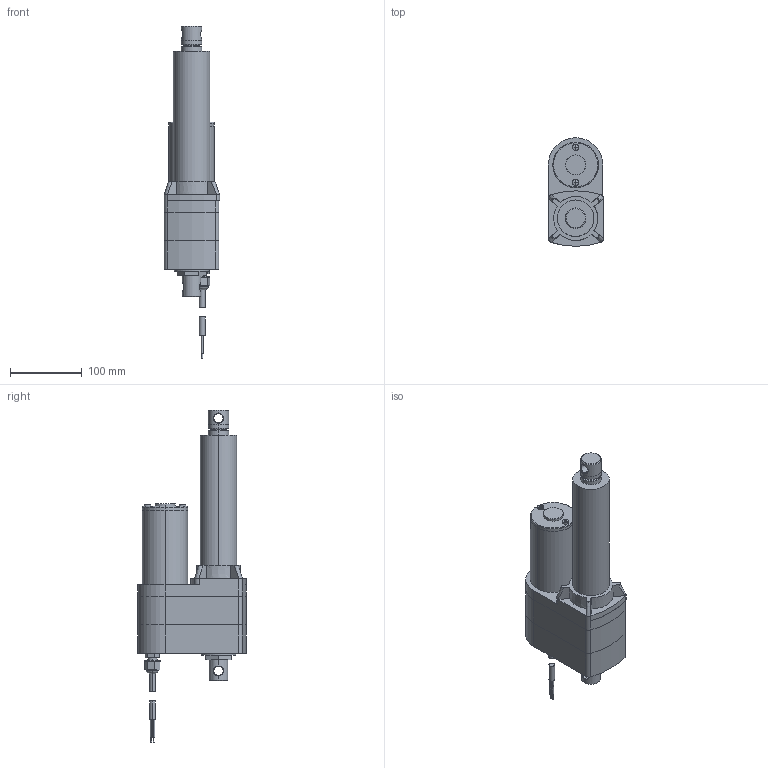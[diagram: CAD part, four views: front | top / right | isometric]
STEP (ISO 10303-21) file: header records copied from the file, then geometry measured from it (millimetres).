
FILE_DESCRIPTION (( 'STEP AP203' ), '1' );
FILE_NAME ('LA10_BALL_4.step', '2021-02-24T15:34:24', ( '' ), ( '' ), 'SwSTEP 2.0', 'SolidWorks 2017', '' );
FILE_SCHEMA (( 'CONFIG_CONTROL_DESIGN' ));
Length unit declared in the file: millimetre
Products named in the file (1): LA10_BALL_4
Bounding box: 77.22 x 151.29 x 462.49 mm (x, y, z)
Volume: 1905768.3 mm3; surface area: 191951.3 mm2
Topology: 14 solids, 14 shells, 327 faces, 704 edges, 436 vertices
Faces by surface type: plane 156, cylinder 103, cone 24, bspline 22, torus 18, sphere 4
Entity records: 10888 total; most frequent: CARTESIAN_POINT 3656, DIRECTION 1547, ORIENTED_EDGE 1408, EDGE_CURVE 704, AXIS2_PLACEMENT_3D 607, VERTEX_POINT 436, EDGE_LOOP 366, VECTOR 333
